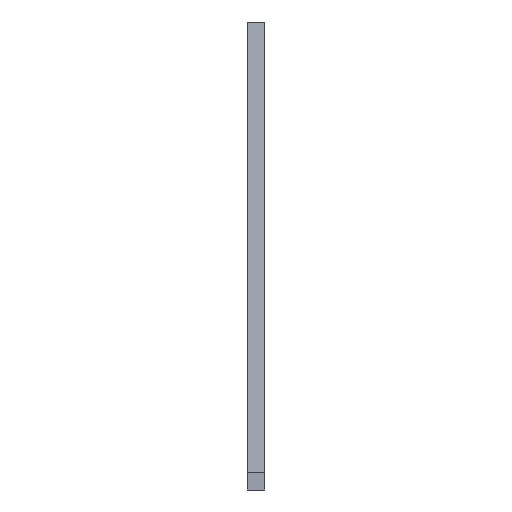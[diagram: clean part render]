
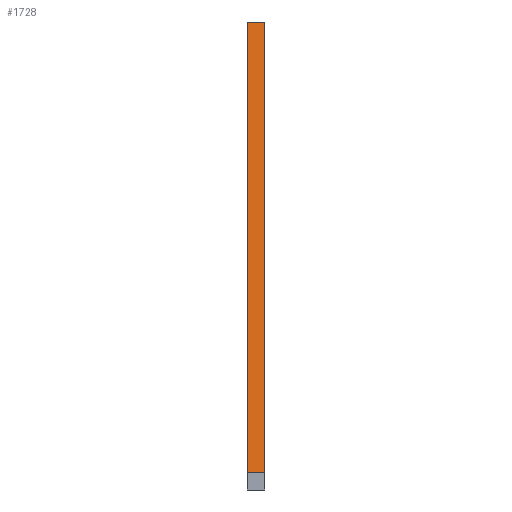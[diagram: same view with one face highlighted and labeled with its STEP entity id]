
A CAD part, left-side view. The second image highlights one B-rep face of the part: STEP entity #1728.
In plain terms, the highlighted planar face has unit normal (-0.431, 0, 0.902).
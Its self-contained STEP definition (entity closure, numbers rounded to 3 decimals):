
#21 = EDGE_CURVE('',#22,#24,#26,.T.);
#22 = VERTEX_POINT('',#23);
#23 = CARTESIAN_POINT('',(7.764,241.,18.));
#24 = VERTEX_POINT('',#25);
#25 = CARTESIAN_POINT('',(7.764,259.,18.));
#26 = SURFACE_CURVE('',#27,(#31,#43),.PCURVE_S1.);
#27 = LINE('',#28,#29);
#28 = CARTESIAN_POINT('',(7.764,241.,18.));
#29 = VECTOR('',#30,1.);
#30 = DIRECTION('',(0.,1.,0.));
#31 = PCURVE('',#32,#37);
#32 = PLANE('',#33);
#33 = AXIS2_PLACEMENT_3D('',#34,#35,#36);
#34 = CARTESIAN_POINT('',(7.764,241.,18.));
#35 = DIRECTION('',(0.,0.,-1.));
#36 = DIRECTION('',(1.,0.,0.));
#37 = DEFINITIONAL_REPRESENTATION('',(#38),#42);
#38 = LINE('',#39,#40);
#39 = CARTESIAN_POINT('',(0.,0.));
#40 = VECTOR('',#41,1.);
#41 = DIRECTION('',(0.,-1.));
#42 = ( GEOMETRIC_REPRESENTATION_CONTEXT(2) 
PARAMETRIC_REPRESENTATION_CONTEXT() REPRESENTATION_CONTEXT('2D SPACE',''
  ) );
#43 = PCURVE('',#44,#49);
#44 = PLANE('',#45);
#45 = AXIS2_PLACEMENT_3D('',#46,#47,#48);
#46 = CARTESIAN_POINT('',(982.,241.,483.76));
#47 = DIRECTION('',(-0.431,0.,0.902));
#48 = DIRECTION('',(-0.902,0.,-0.431));
#49 = DEFINITIONAL_REPRESENTATION('',(#50),#54);
#50 = LINE('',#51,#52);
#51 = CARTESIAN_POINT('',(1079.847,0.));
#52 = VECTOR('',#53,1.);
#53 = DIRECTION('',(0.,-1.));
#54 = ( GEOMETRIC_REPRESENTATION_CONTEXT(2) 
PARAMETRIC_REPRESENTATION_CONTEXT() REPRESENTATION_CONTEXT('2D SPACE',''
  ) );
#72 = PLANE('',#73);
#73 = AXIS2_PLACEMENT_3D('',#74,#75,#76);
#74 = CARTESIAN_POINT('',(593.685,259.,154.079));
#75 = DIRECTION('',(-0.,-1.,-0.));
#76 = DIRECTION('',(0.,0.,-1.));
#126 = PLANE('',#127);
#127 = AXIS2_PLACEMENT_3D('',#128,#129,#130);
#128 = CARTESIAN_POINT('',(593.685,241.,154.079));
#129 = DIRECTION('',(-0.,-1.,-0.));
#130 = DIRECTION('',(0.,0.,-1.));
#1625 = PLANE('',#1626);
#1626 = AXIS2_PLACEMENT_3D('',#1627,#1628,#1629);
#1627 = CARTESIAN_POINT('',(982.,241.,350.));
#1628 = DIRECTION('',(1.,0.,0.));
#1629 = DIRECTION('',(0.,0.,1.));
#1663 = VERTEX_POINT('',#1664);
#1664 = CARTESIAN_POINT('',(982.,259.,483.76));
#1685 = EDGE_CURVE('',#1686,#1663,#1688,.T.);
#1686 = VERTEX_POINT('',#1687);
#1687 = CARTESIAN_POINT('',(982.,241.,483.76));
#1688 = SURFACE_CURVE('',#1689,(#1693,#1700),.PCURVE_S1.);
#1689 = LINE('',#1690,#1691);
#1690 = CARTESIAN_POINT('',(982.,241.,483.76));
#1691 = VECTOR('',#1692,1.);
#1692 = DIRECTION('',(0.,1.,0.));
#1693 = PCURVE('',#1625,#1694);
#1694 = DEFINITIONAL_REPRESENTATION('',(#1695),#1699);
#1695 = LINE('',#1696,#1697);
#1696 = CARTESIAN_POINT('',(133.76,0.));
#1697 = VECTOR('',#1698,1.);
#1698 = DIRECTION('',(0.,-1.));
#1699 = ( GEOMETRIC_REPRESENTATION_CONTEXT(2) 
PARAMETRIC_REPRESENTATION_CONTEXT() REPRESENTATION_CONTEXT('2D SPACE',''
  ) );
#1700 = PCURVE('',#44,#1701);
#1701 = DEFINITIONAL_REPRESENTATION('',(#1702),#1706);
#1702 = LINE('',#1703,#1704);
#1703 = CARTESIAN_POINT('',(0.,0.));
#1704 = VECTOR('',#1705,1.);
#1705 = DIRECTION('',(0.,-1.));
#1706 = ( GEOMETRIC_REPRESENTATION_CONTEXT(2) 
PARAMETRIC_REPRESENTATION_CONTEXT() REPRESENTATION_CONTEXT('2D SPACE',''
  ) );
#1728 = ADVANCED_FACE('',(#1729),#44,.T.);
#1729 = FACE_BOUND('',#1730,.T.);
#1730 = EDGE_LOOP('',(#1731,#1732,#1753,#1754));
#1731 = ORIENTED_EDGE('',*,*,#1685,.T.);
#1732 = ORIENTED_EDGE('',*,*,#1733,.T.);
#1733 = EDGE_CURVE('',#1663,#24,#1734,.T.);
#1734 = SURFACE_CURVE('',#1735,(#1739,#1746),.PCURVE_S1.);
#1735 = LINE('',#1736,#1737);
#1736 = CARTESIAN_POINT('',(982.,259.,483.76));
#1737 = VECTOR('',#1738,1.);
#1738 = DIRECTION('',(-0.902,0.,-0.431));
#1739 = PCURVE('',#44,#1740);
#1740 = DEFINITIONAL_REPRESENTATION('',(#1741),#1745);
#1741 = LINE('',#1742,#1743);
#1742 = CARTESIAN_POINT('',(0.,-18.));
#1743 = VECTOR('',#1744,1.);
#1744 = DIRECTION('',(1.,0.));
#1745 = ( GEOMETRIC_REPRESENTATION_CONTEXT(2) 
PARAMETRIC_REPRESENTATION_CONTEXT() REPRESENTATION_CONTEXT('2D SPACE',''
  ) );
#1746 = PCURVE('',#72,#1747);
#1747 = DEFINITIONAL_REPRESENTATION('',(#1748),#1752);
#1748 = LINE('',#1749,#1750);
#1749 = CARTESIAN_POINT('',(-329.681,388.315));
#1750 = VECTOR('',#1751,1.);
#1751 = DIRECTION('',(0.431,-0.902));
#1752 = ( GEOMETRIC_REPRESENTATION_CONTEXT(2) 
PARAMETRIC_REPRESENTATION_CONTEXT() REPRESENTATION_CONTEXT('2D SPACE',''
  ) );
#1753 = ORIENTED_EDGE('',*,*,#21,.F.);
#1754 = ORIENTED_EDGE('',*,*,#1755,.F.);
#1755 = EDGE_CURVE('',#1686,#22,#1756,.T.);
#1756 = SURFACE_CURVE('',#1757,(#1761,#1768),.PCURVE_S1.);
#1757 = LINE('',#1758,#1759);
#1758 = CARTESIAN_POINT('',(982.,241.,483.76));
#1759 = VECTOR('',#1760,1.);
#1760 = DIRECTION('',(-0.902,0.,-0.431));
#1761 = PCURVE('',#44,#1762);
#1762 = DEFINITIONAL_REPRESENTATION('',(#1763),#1767);
#1763 = LINE('',#1764,#1765);
#1764 = CARTESIAN_POINT('',(0.,0.));
#1765 = VECTOR('',#1766,1.);
#1766 = DIRECTION('',(1.,0.));
#1767 = ( GEOMETRIC_REPRESENTATION_CONTEXT(2) 
PARAMETRIC_REPRESENTATION_CONTEXT() REPRESENTATION_CONTEXT('2D SPACE',''
  ) );
#1768 = PCURVE('',#126,#1769);
#1769 = DEFINITIONAL_REPRESENTATION('',(#1770),#1774);
#1770 = LINE('',#1771,#1772);
#1771 = CARTESIAN_POINT('',(-329.681,388.315));
#1772 = VECTOR('',#1773,1.);
#1773 = DIRECTION('',(0.431,-0.902));
#1774 = ( GEOMETRIC_REPRESENTATION_CONTEXT(2) 
PARAMETRIC_REPRESENTATION_CONTEXT() REPRESENTATION_CONTEXT('2D SPACE',''
  ) );
